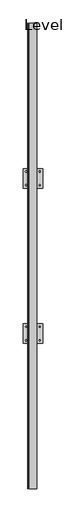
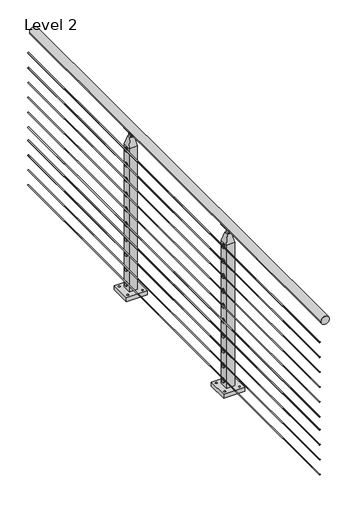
# One storey, part 5 of 17: 1 railing.
"""IFC4 building model written with IfcOpenShell, lengths in millimetres."""

from ifc_helpers import new_model, si_unit, point, frame, frame_2d, origin, place, context, project, spatial, polyline, circle_curve, trimmed, segment, composite_curve, outline, extrude, faceted_brep, element, save
from ifc_brep_helpers import plane_surface, cylinder_surface, revolved_surface, advanced_brep

model = new_model("IFC4")

# Units and contexts
model_context = context("Model", 3, world=origin())
ifc_project = project(units=[si_unit("LENGTHUNIT", "METRE", prefix="MILLI")], contexts=[model_context])

# Site, building, storey
site = spatial("IfcSite", under=ifc_project)
building = spatial("IfcBuilding", under=site)
storey = spatial("IfcBuildingStorey", under=building, Name="Level 2", Elevation=3048.0)

# Railing
placement = place(None, origin())
element("IfcRailing", 1, ObjectType="VIVA-CUBE-Multiline-Cable-Floor Mount-Straight", at=placement, inside=storey, context=model_context, shape_type="SolidModel", body=[
    extrude(outline(composite_curve([segment(trimmed(circle_curve(frame_2d((4102.1, 20884.8167764)), 25.4), [point((4102.1, 20910.2167764))], [point((4102.1, 20859.4167764))], False, "CARTESIAN"), True, "CONTINUOUS"), segment(trimmed(circle_curve(frame_2d((4102.1, 20884.8167764)), 25.4), [point((4102.1, 20859.4167764))], [point((4102.1, 20910.2167764))], False, "CARTESIAN"), True, "CONTINUOUS")], self_intersect=False)), frame((0.0, -68412.8034511, 0.0), z_axis=(0.0, 1.0, 0.0), x_axis=(0.0, 0.0, 1.0)), (0.0, 0.0, 1.0), 3048.0),
    extrude(outline(composite_curve([segment(trimmed(circle_curve(frame_2d((3972.7124, 20851.7967764)), 2.3876), [point((3972.7124, 20849.4091764))], [point((3972.7124, 20854.1843764))], False, "CARTESIAN"), True, "CONTINUOUS"), segment(trimmed(circle_curve(frame_2d((3972.7124, 20851.7967764)), 2.3876), [point((3972.7124, 20854.1843764))], [point((3972.7124, 20849.4091764))], False, "CARTESIAN"), True, "CONTINUOUS")], self_intersect=False)), frame((0.0, -68412.8034511, 0.0), z_axis=(0.0, 1.0, 0.0), x_axis=(0.0, 0.0, 1.0)), (0.0, 0.0, 1.0), 3048.0),
    extrude(outline(composite_curve([segment(trimmed(circle_curve(frame_2d((3877.4624, 20851.7967764)), 2.3876), [point((3877.4624, 20849.4091764))], [point((3877.4624, 20854.1843764))], False, "CARTESIAN"), True, "CONTINUOUS"), segment(trimmed(circle_curve(frame_2d((3877.4624, 20851.7967764)), 2.3876), [point((3877.4624, 20854.1843764))], [point((3877.4624, 20849.4091764))], False, "CARTESIAN"), True, "CONTINUOUS")], self_intersect=False)), frame((0.0, -68412.8034511, 0.0), z_axis=(0.0, 1.0, 0.0), x_axis=(0.0, 0.0, 1.0)), (0.0, 0.0, 1.0), 3048.0),
    extrude(outline(composite_curve([segment(trimmed(circle_curve(frame_2d((3782.2124, 20851.7967764)), 2.3876), [point((3782.2124, 20849.4091764))], [point((3782.2124, 20854.1843764))], False, "CARTESIAN"), True, "CONTINUOUS"), segment(trimmed(circle_curve(frame_2d((3782.2124, 20851.7967764)), 2.3876), [point((3782.2124, 20854.1843764))], [point((3782.2124, 20849.4091764))], False, "CARTESIAN"), True, "CONTINUOUS")], self_intersect=False)), frame((0.0, -68412.8034511, 0.0), z_axis=(0.0, 1.0, 0.0), x_axis=(0.0, 0.0, 1.0)), (0.0, 0.0, 1.0), 3048.0),
    extrude(outline(composite_curve([segment(trimmed(circle_curve(frame_2d((3686.9624, 20851.7967764)), 2.3876), [point((3686.9624, 20849.4091764))], [point((3686.9624, 20854.1843764))], False, "CARTESIAN"), True, "CONTINUOUS"), segment(trimmed(circle_curve(frame_2d((3686.9624, 20851.7967764)), 2.3876), [point((3686.9624, 20854.1843764))], [point((3686.9624, 20849.4091764))], False, "CARTESIAN"), True, "CONTINUOUS")], self_intersect=False)), frame((0.0, -68412.8034511, 0.0), z_axis=(0.0, 1.0, 0.0), x_axis=(0.0, 0.0, 1.0)), (0.0, 0.0, 1.0), 3048.0),
    extrude(outline(composite_curve([segment(trimmed(circle_curve(frame_2d((3591.7124, 20851.7967764)), 2.3876), [point((3591.7124, 20849.4091764))], [point((3591.7124, 20854.1843764))], False, "CARTESIAN"), True, "CONTINUOUS"), segment(trimmed(circle_curve(frame_2d((3591.7124, 20851.7967764)), 2.3876), [point((3591.7124, 20854.1843764))], [point((3591.7124, 20849.4091764))], False, "CARTESIAN"), True, "CONTINUOUS")], self_intersect=False)), frame((0.0, -68412.8034511, 0.0), z_axis=(0.0, 1.0, 0.0), x_axis=(0.0, 0.0, 1.0)), (0.0, 0.0, 1.0), 3048.0),
    extrude(outline(composite_curve([segment(trimmed(circle_curve(frame_2d((3496.4624, 20851.7967764)), 2.3876), [point((3496.4624, 20849.4091764))], [point((3496.4624, 20854.1843764))], False, "CARTESIAN"), True, "CONTINUOUS"), segment(trimmed(circle_curve(frame_2d((3496.4624, 20851.7967764)), 2.3876), [point((3496.4624, 20854.1843764))], [point((3496.4624, 20849.4091764))], False, "CARTESIAN"), True, "CONTINUOUS")], self_intersect=False)), frame((0.0, -68412.8034511, 0.0), z_axis=(0.0, 1.0, 0.0), x_axis=(0.0, 0.0, 1.0)), (0.0, 0.0, 1.0), 3048.0),
    extrude(outline(composite_curve([segment(trimmed(circle_curve(frame_2d((3413.9124, 20851.7967764)), 2.3876), [point((3413.9124, 20849.4091764))], [point((3413.9124, 20854.1843764))], False, "CARTESIAN"), True, "CONTINUOUS"), segment(trimmed(circle_curve(frame_2d((3413.9124, 20851.7967764)), 2.3876), [point((3413.9124, 20854.1843764))], [point((3413.9124, 20849.4091764))], False, "CARTESIAN"), True, "CONTINUOUS")], self_intersect=False)), frame((0.0, -68412.8034511, 0.0), z_axis=(0.0, 1.0, 0.0), x_axis=(0.0, 0.0, 1.0)), (0.0, 0.0, 1.0), 3048.0),
    extrude(outline(composite_curve([segment(trimmed(circle_curve(frame_2d((3318.6624, 20851.7967764)), 2.3876), [point((3318.6624, 20849.4091764))], [point((3318.6624, 20854.1843764))], False, "CARTESIAN"), True, "CONTINUOUS"), segment(trimmed(circle_curve(frame_2d((3318.6624, 20851.7967764)), 2.3876), [point((3318.6624, 20854.1843764))], [point((3318.6624, 20849.4091764))], False, "CARTESIAN"), True, "CONTINUOUS")], self_intersect=False)), frame((0.0, -68412.8034511, 0.0), z_axis=(0.0, 1.0, 0.0), x_axis=(0.0, 0.0, 1.0)), (0.0, 0.0, 1.0), 3048.0),
    extrude(outline(composite_curve([segment(trimmed(circle_curve(frame_2d((3223.4124, 20851.7967764)), 2.3876), [point((3223.4124, 20849.4091764))], [point((3223.4124, 20854.1843764))], False, "CARTESIAN"), True, "CONTINUOUS"), segment(trimmed(circle_curve(frame_2d((3223.4124, 20851.7967764)), 2.3876), [point((3223.4124, 20854.1843764))], [point((3223.4124, 20849.4091764))], False, "CARTESIAN"), True, "CONTINUOUS")], self_intersect=False)), frame((0.0, -68412.8034511, 0.0), z_axis=(0.0, 1.0, 0.0), x_axis=(0.0, 0.0, 1.0)), (0.0, 0.0, 1.0), 3048.0),
    extrude(outline(composite_curve([segment(trimmed(circle_curve(frame_2d((3128.1624, 20851.7967764)), 2.3876), [point((3128.1624, 20849.4091764))], [point((3128.1624, 20854.1843764))], False, "CARTESIAN"), True, "CONTINUOUS"), segment(trimmed(circle_curve(frame_2d((3128.1624, 20851.7967764)), 2.3876), [point((3128.1624, 20854.1843764))], [point((3128.1624, 20849.4091764))], False, "CARTESIAN"), True, "CONTINUOUS")], self_intersect=False)), frame((0.0, -68412.8034511, 0.0), z_axis=(0.0, 1.0, 0.0), x_axis=(0.0, 0.0, 1.0)), (0.0, 0.0, 1.0), 3048.0),
    advanced_brep(
    [(20854.0736021, -66367.3432432, 3111.5), (20854.0736021, -66392.6761591, 3111.5), (20854.0736021, -66380.0097011, 3111.5), (20859.4076021, -66367.3432432, 3111.5), (20859.4076021, -66392.6761591, 3111.5), (20859.4076021, -66380.0097011, 3111.5)],
    [
        (0, 1, circle_curve(frame((20854.0736021, -66380.0097011, 3111.5), z_axis=(-1.0, 0.0, 0.0), x_axis=(0.0, -1.0, 0.0)), 12.666458)),
        (1, 2),
        (2, 0),
        (1, 0, circle_curve(frame((20854.0736021, -66380.0097011, 3111.5), z_axis=(-1.0, 0.0, 0.0), x_axis=(0.0, -1.0, 0.0)), 12.666458)),
        (3, 4, circle_curve(frame((20859.4076021, -66380.0097011, 3111.5), z_axis=(-1.0, 0.0, 0.0), x_axis=(0.0, -1.0, 0.0)), 12.666458)),
        (4, 1),
        (0, 3),
        (4, 3, circle_curve(frame((20859.4076021, -66380.0097011, 3111.5), z_axis=(-1.0, 0.0, 0.0), x_axis=(0.0, -1.0, 0.0)), 12.666458)),
        (5, 4),
        (3, 5),
    ],
    [
        plane_surface(frame((20854.0736021, -66380.0097011, 3111.5), z_axis=(-1.0, 0.0, 0.0), x_axis=(0.0, -1.0, 0.0))),
        cylinder_surface(frame((20986.4167764, -66380.0097011, 3111.5), z_axis=(1.0, 0.0, 0.0), x_axis=(0.0, -1.0, 0.0)), 12.666458),
        plane_surface(frame((20859.4076021, -66380.0097011, 3111.5), z_axis=(1.0, 0.0, 0.0), x_axis=(0.0, -1.0, 0.0))),
    ],
    [
        (0, [[1, 2, 3]]),
        (0, [[4, -3, -2]]),
        (1, [[5, 6, -1, 7]]),
        (1, [[8, -7, -4, -6]]),
        (2, [[9, -5, 10]]),
        (2, [[-10, -8, -9]]),
    ],
),
    advanced_brep(
    [(20854.0736021, -66367.3432432, 3206.75), (20854.0736021, -66392.6761591, 3206.75), (20854.0736021, -66380.0097011, 3206.75), (20859.4076021, -66367.3432432, 3206.75), (20859.4076021, -66392.6761591, 3206.75), (20859.4076021, -66380.0097011, 3206.75)],
    [
        (0, 1, circle_curve(frame((20854.0736021, -66380.0097011, 3206.75), z_axis=(-1.0, 0.0, 0.0), x_axis=(0.0, -1.0, 0.0)), 12.666458)),
        (1, 2),
        (2, 0),
        (1, 0, circle_curve(frame((20854.0736021, -66380.0097011, 3206.75), z_axis=(-1.0, 0.0, 0.0), x_axis=(0.0, -1.0, 0.0)), 12.666458)),
        (3, 4, circle_curve(frame((20859.4076021, -66380.0097011, 3206.75), z_axis=(-1.0, 0.0, 0.0), x_axis=(0.0, -1.0, 0.0)), 12.666458)),
        (4, 1),
        (0, 3),
        (4, 3, circle_curve(frame((20859.4076021, -66380.0097011, 3206.75), z_axis=(-1.0, 0.0, 0.0), x_axis=(0.0, -1.0, 0.0)), 12.666458)),
        (5, 4),
        (3, 5),
    ],
    [
        plane_surface(frame((20854.0736021, -66380.0097011, 3206.75), z_axis=(-1.0, 0.0, 0.0), x_axis=(0.0, -1.0, 0.0))),
        cylinder_surface(frame((20986.4167764, -66380.0097011, 3206.75), z_axis=(1.0, 0.0, 0.0), x_axis=(0.0, -1.0, 0.0)), 12.666458),
        plane_surface(frame((20859.4076021, -66380.0097011, 3206.75), z_axis=(1.0, 0.0, 0.0), x_axis=(0.0, -1.0, 0.0))),
    ],
    [
        (0, [[1, 2, 3]]),
        (0, [[4, -3, -2]]),
        (1, [[5, 6, -1, 7]]),
        (1, [[8, -7, -4, -6]]),
        (2, [[9, -5, 10]]),
        (2, [[-10, -8, -9]]),
    ],
),
    advanced_brep(
    [(20854.0736021, -66367.3432432, 3302.0), (20854.0736021, -66392.6761591, 3302.0), (20854.0736021, -66380.0097011, 3302.0), (20859.4076021, -66367.3432432, 3302.0), (20859.4076021, -66392.6761591, 3302.0), (20859.4076021, -66380.0097011, 3302.0)],
    [
        (0, 1, circle_curve(frame((20854.0736021, -66380.0097011, 3302.0), z_axis=(-1.0, 0.0, 0.0), x_axis=(0.0, -1.0, 0.0)), 12.666458)),
        (1, 2),
        (2, 0),
        (1, 0, circle_curve(frame((20854.0736021, -66380.0097011, 3302.0), z_axis=(-1.0, 0.0, 0.0), x_axis=(0.0, -1.0, 0.0)), 12.666458)),
        (3, 4, circle_curve(frame((20859.4076021, -66380.0097011, 3302.0), z_axis=(-1.0, 0.0, 0.0), x_axis=(0.0, -1.0, 0.0)), 12.666458)),
        (4, 1),
        (0, 3),
        (4, 3, circle_curve(frame((20859.4076021, -66380.0097011, 3302.0), z_axis=(-1.0, 0.0, 0.0), x_axis=(0.0, -1.0, 0.0)), 12.666458)),
        (5, 4),
        (3, 5),
    ],
    [
        plane_surface(frame((20854.0736021, -66380.0097011, 3302.0), z_axis=(-1.0, 0.0, 0.0), x_axis=(0.0, -1.0, 0.0))),
        cylinder_surface(frame((20986.4167764, -66380.0097011, 3302.0), z_axis=(1.0, 0.0, 0.0), x_axis=(0.0, -1.0, 0.0)), 12.666458),
        plane_surface(frame((20859.4076021, -66380.0097011, 3302.0), z_axis=(1.0, 0.0, 0.0), x_axis=(0.0, -1.0, 0.0))),
    ],
    [
        (0, [[1, 2, 3]]),
        (0, [[4, -3, -2]]),
        (1, [[5, 6, -1, 7]]),
        (1, [[8, -7, -4, -6]]),
        (2, [[9, -5, 10]]),
        (2, [[-10, -8, -9]]),
    ],
),
    advanced_brep(
    [(20854.0736021, -66367.3432432, 3397.25), (20854.0736021, -66392.6761591, 3397.25), (20854.0736021, -66380.0097011, 3397.25), (20859.4076021, -66367.3432432, 3397.25), (20859.4076021, -66392.6761591, 3397.25), (20859.4076021, -66380.0097011, 3397.25)],
    [
        (0, 1, circle_curve(frame((20854.0736021, -66380.0097011, 3397.25), z_axis=(-1.0, 0.0, 0.0), x_axis=(0.0, -1.0, 0.0)), 12.666458)),
        (1, 2),
        (2, 0),
        (1, 0, circle_curve(frame((20854.0736021, -66380.0097011, 3397.25), z_axis=(-1.0, 0.0, 0.0), x_axis=(0.0, -1.0, 0.0)), 12.666458)),
        (3, 4, circle_curve(frame((20859.4076021, -66380.0097011, 3397.25), z_axis=(-1.0, 0.0, 0.0), x_axis=(0.0, -1.0, 0.0)), 12.666458)),
        (4, 1),
        (0, 3),
        (4, 3, circle_curve(frame((20859.4076021, -66380.0097011, 3397.25), z_axis=(-1.0, 0.0, 0.0), x_axis=(0.0, -1.0, 0.0)), 12.666458)),
        (5, 4),
        (3, 5),
    ],
    [
        plane_surface(frame((20854.0736021, -66380.0097011, 3397.25), z_axis=(-1.0, 0.0, 0.0), x_axis=(0.0, -1.0, 0.0))),
        cylinder_surface(frame((20986.4167764, -66380.0097011, 3397.25), z_axis=(1.0, 0.0, 0.0), x_axis=(0.0, -1.0, 0.0)), 12.666458),
        plane_surface(frame((20859.4076021, -66380.0097011, 3397.25), z_axis=(1.0, 0.0, 0.0), x_axis=(0.0, -1.0, 0.0))),
    ],
    [
        (0, [[1, 2, 3]]),
        (0, [[4, -3, -2]]),
        (1, [[5, 6, -1, 7]]),
        (1, [[8, -7, -4, -6]]),
        (2, [[9, -5, 10]]),
        (2, [[-10, -8, -9]]),
    ],
),
    advanced_brep(
    [(20854.0736021, -66367.3432432, 3492.5), (20854.0736021, -66392.6761591, 3492.5), (20854.0736021, -66380.0097011, 3492.5), (20859.4076021, -66367.3432432, 3492.5), (20859.4076021, -66392.6761591, 3492.5), (20859.4076021, -66380.0097011, 3492.5)],
    [
        (0, 1, circle_curve(frame((20854.0736021, -66380.0097011, 3492.5), z_axis=(-1.0, 0.0, 0.0), x_axis=(0.0, -1.0, 0.0)), 12.666458)),
        (1, 2),
        (2, 0),
        (1, 0, circle_curve(frame((20854.0736021, -66380.0097011, 3492.5), z_axis=(-1.0, 0.0, 0.0), x_axis=(0.0, -1.0, 0.0)), 12.666458)),
        (3, 4, circle_curve(frame((20859.4076021, -66380.0097011, 3492.5), z_axis=(-1.0, 0.0, 0.0), x_axis=(0.0, -1.0, 0.0)), 12.666458)),
        (4, 1),
        (0, 3),
        (4, 3, circle_curve(frame((20859.4076021, -66380.0097011, 3492.5), z_axis=(-1.0, 0.0, 0.0), x_axis=(0.0, -1.0, 0.0)), 12.666458)),
        (5, 4),
        (3, 5),
    ],
    [
        plane_surface(frame((20854.0736021, -66380.0097011, 3492.5), z_axis=(-1.0, 0.0, 0.0), x_axis=(0.0, -1.0, 0.0))),
        cylinder_surface(frame((20986.4167764, -66380.0097011, 3492.5), z_axis=(1.0, 0.0, 0.0), x_axis=(0.0, -1.0, 0.0)), 12.666458),
        plane_surface(frame((20859.4076021, -66380.0097011, 3492.5), z_axis=(1.0, 0.0, 0.0), x_axis=(0.0, -1.0, 0.0))),
    ],
    [
        (0, [[1, 2, 3]]),
        (0, [[4, -3, -2]]),
        (1, [[5, 6, -1, 7]]),
        (1, [[8, -7, -4, -6]]),
        (2, [[9, -5, 10]]),
        (2, [[-10, -8, -9]]),
    ],
),
    advanced_brep(
    [(20854.0736021, -66367.3432432, 3587.75), (20854.0736021, -66392.6761591, 3587.75), (20854.0736021, -66380.0097011, 3587.75), (20859.4076021, -66367.3432432, 3587.75), (20859.4076021, -66392.6761591, 3587.75), (20859.4076021, -66380.0097011, 3587.75)],
    [
        (0, 1, circle_curve(frame((20854.0736021, -66380.0097011, 3587.75), z_axis=(-1.0, 0.0, 0.0), x_axis=(0.0, -1.0, 0.0)), 12.666458)),
        (1, 2),
        (2, 0),
        (1, 0, circle_curve(frame((20854.0736021, -66380.0097011, 3587.75), z_axis=(-1.0, 0.0, 0.0), x_axis=(0.0, -1.0, 0.0)), 12.666458)),
        (3, 4, circle_curve(frame((20859.4076021, -66380.0097011, 3587.75), z_axis=(-1.0, 0.0, 0.0), x_axis=(0.0, -1.0, 0.0)), 12.666458)),
        (4, 1),
        (0, 3),
        (4, 3, circle_curve(frame((20859.4076021, -66380.0097011, 3587.75), z_axis=(-1.0, 0.0, 0.0), x_axis=(0.0, -1.0, 0.0)), 12.666458)),
        (5, 4),
        (3, 5),
    ],
    [
        plane_surface(frame((20854.0736021, -66380.0097011, 3587.75), z_axis=(-1.0, 0.0, 0.0), x_axis=(0.0, -1.0, 0.0))),
        cylinder_surface(frame((20986.4167764, -66380.0097011, 3587.75), z_axis=(1.0, 0.0, 0.0), x_axis=(0.0, -1.0, 0.0)), 12.666458),
        plane_surface(frame((20859.4076021, -66380.0097011, 3587.75), z_axis=(1.0, 0.0, 0.0), x_axis=(0.0, -1.0, 0.0))),
    ],
    [
        (0, [[1, 2, 3]]),
        (0, [[4, -3, -2]]),
        (1, [[5, 6, -1, 7]]),
        (1, [[8, -7, -4, -6]]),
        (2, [[9, -5, 10]]),
        (2, [[-10, -8, -9]]),
    ],
),
    advanced_brep(
    [(20854.0736021, -66367.3432432, 3683.0), (20854.0736021, -66392.6761591, 3683.0), (20854.0736021, -66380.0097011, 3683.0), (20859.4076021, -66367.3432432, 3683.0), (20859.4076021, -66392.6761591, 3683.0), (20859.4076021, -66380.0097011, 3683.0)],
    [
        (0, 1, circle_curve(frame((20854.0736021, -66380.0097011, 3683.0), z_axis=(-1.0, 0.0, 0.0), x_axis=(0.0, -1.0, 0.0)), 12.666458)),
        (1, 2),
        (2, 0),
        (1, 0, circle_curve(frame((20854.0736021, -66380.0097011, 3683.0), z_axis=(-1.0, 0.0, 0.0), x_axis=(0.0, -1.0, 0.0)), 12.666458)),
        (3, 4, circle_curve(frame((20859.4076021, -66380.0097011, 3683.0), z_axis=(-1.0, 0.0, 0.0), x_axis=(0.0, -1.0, 0.0)), 12.666458)),
        (4, 1),
        (0, 3),
        (4, 3, circle_curve(frame((20859.4076021, -66380.0097011, 3683.0), z_axis=(-1.0, 0.0, 0.0), x_axis=(0.0, -1.0, 0.0)), 12.666458)),
        (5, 4),
        (3, 5),
    ],
    [
        plane_surface(frame((20854.0736021, -66380.0097011, 3683.0), z_axis=(-1.0, 0.0, 0.0), x_axis=(0.0, -1.0, 0.0))),
        cylinder_surface(frame((20986.4167764, -66380.0097011, 3683.0), z_axis=(1.0, 0.0, 0.0), x_axis=(0.0, -1.0, 0.0)), 12.666458),
        plane_surface(frame((20859.4076021, -66380.0097011, 3683.0), z_axis=(1.0, 0.0, 0.0), x_axis=(0.0, -1.0, 0.0))),
    ],
    [
        (0, [[1, 2, 3]]),
        (0, [[4, -3, -2]]),
        (1, [[5, 6, -1, 7]]),
        (1, [[8, -7, -4, -6]]),
        (2, [[9, -5, 10]]),
        (2, [[-10, -8, -9]]),
    ],
),
    advanced_brep(
    [(20854.0736021, -66367.3432432, 3778.25), (20854.0736021, -66392.6761591, 3778.25), (20854.0736021, -66380.0097011, 3778.25), (20859.4076021, -66367.3432432, 3778.25), (20859.4076021, -66392.6761591, 3778.25), (20859.4076021, -66380.0097011, 3778.25)],
    [
        (0, 1, circle_curve(frame((20854.0736021, -66380.0097011, 3778.25), z_axis=(-1.0, 0.0, 0.0), x_axis=(0.0, -1.0, 0.0)), 12.666458)),
        (1, 2),
        (2, 0),
        (1, 0, circle_curve(frame((20854.0736021, -66380.0097011, 3778.25), z_axis=(-1.0, 0.0, 0.0), x_axis=(0.0, -1.0, 0.0)), 12.666458)),
        (3, 4, circle_curve(frame((20859.4076021, -66380.0097011, 3778.25), z_axis=(-1.0, 0.0, 0.0), x_axis=(0.0, -1.0, 0.0)), 12.666458)),
        (4, 1),
        (0, 3),
        (4, 3, circle_curve(frame((20859.4076021, -66380.0097011, 3778.25), z_axis=(-1.0, 0.0, 0.0), x_axis=(0.0, -1.0, 0.0)), 12.666458)),
        (5, 4),
        (3, 5),
    ],
    [
        plane_surface(frame((20854.0736021, -66380.0097011, 3778.25), z_axis=(-1.0, 0.0, 0.0), x_axis=(0.0, -1.0, 0.0))),
        cylinder_surface(frame((20986.4167764, -66380.0097011, 3778.25), z_axis=(1.0, 0.0, 0.0), x_axis=(0.0, -1.0, 0.0)), 12.666458),
        plane_surface(frame((20859.4076021, -66380.0097011, 3778.25), z_axis=(1.0, 0.0, 0.0), x_axis=(0.0, -1.0, 0.0))),
    ],
    [
        (0, [[1, 2, 3]]),
        (0, [[4, -3, -2]]),
        (1, [[5, 6, -1, 7]]),
        (1, [[8, -7, -4, -6]]),
        (2, [[9, -5, 10]]),
        (2, [[-10, -8, -9]]),
    ],
),
    advanced_brep(
    [(20854.0736021, -66367.3432432, 3873.5), (20854.0736021, -66392.6761591, 3873.5), (20854.0736021, -66380.0097011, 3873.5), (20859.4076021, -66367.3432432, 3873.5), (20859.4076021, -66392.6761591, 3873.5), (20859.4076021, -66380.0097011, 3873.5)],
    [
        (0, 1, circle_curve(frame((20854.0736021, -66380.0097011, 3873.5), z_axis=(-1.0, 0.0, 0.0), x_axis=(0.0, -1.0, 0.0)), 12.666458)),
        (1, 2),
        (2, 0),
        (1, 0, circle_curve(frame((20854.0736021, -66380.0097011, 3873.5), z_axis=(-1.0, 0.0, 0.0), x_axis=(0.0, -1.0, 0.0)), 12.666458)),
        (3, 4, circle_curve(frame((20859.4076021, -66380.0097011, 3873.5), z_axis=(-1.0, 0.0, 0.0), x_axis=(0.0, -1.0, 0.0)), 12.666458)),
        (4, 1),
        (0, 3),
        (4, 3, circle_curve(frame((20859.4076021, -66380.0097011, 3873.5), z_axis=(-1.0, 0.0, 0.0), x_axis=(0.0, -1.0, 0.0)), 12.666458)),
        (5, 4),
        (3, 5),
    ],
    [
        plane_surface(frame((20854.0736021, -66380.0097011, 3873.5), z_axis=(-1.0, 0.0, 0.0), x_axis=(0.0, -1.0, 0.0))),
        cylinder_surface(frame((20986.4167764, -66380.0097011, 3873.5), z_axis=(1.0, 0.0, 0.0), x_axis=(0.0, -1.0, 0.0)), 12.666458),
        plane_surface(frame((20859.4076021, -66380.0097011, 3873.5), z_axis=(1.0, 0.0, 0.0), x_axis=(0.0, -1.0, 0.0))),
    ],
    [
        (0, [[1, 2, 3]]),
        (0, [[4, -3, -2]]),
        (1, [[5, 6, -1, 7]]),
        (1, [[8, -7, -4, -6]]),
        (2, [[9, -5, 10]]),
        (2, [[-10, -8, -9]]),
    ],
),
    advanced_brep(
    [(20854.0736021, -66367.3432432, 3968.75), (20854.0736021, -66392.6761591, 3968.75), (20854.0736021, -66380.0097011, 3968.75), (20859.4076021, -66367.3432432, 3968.75), (20859.4076021, -66392.6761591, 3968.75), (20859.4076021, -66380.0097011, 3968.75)],
    [
        (0, 1, circle_curve(frame((20854.0736021, -66380.0097011, 3968.75), z_axis=(-1.0, 0.0, 0.0), x_axis=(0.0, -1.0, 0.0)), 12.666458)),
        (1, 2),
        (2, 0),
        (1, 0, circle_curve(frame((20854.0736021, -66380.0097011, 3968.75), z_axis=(-1.0, 0.0, 0.0), x_axis=(0.0, -1.0, 0.0)), 12.666458)),
        (3, 4, circle_curve(frame((20859.4076021, -66380.0097011, 3968.75), z_axis=(-1.0, 0.0, 0.0), x_axis=(0.0, -1.0, 0.0)), 12.666458)),
        (4, 1),
        (0, 3),
        (4, 3, circle_curve(frame((20859.4076021, -66380.0097011, 3968.75), z_axis=(-1.0, 0.0, 0.0), x_axis=(0.0, -1.0, 0.0)), 12.666458)),
        (5, 4),
        (3, 5),
    ],
    [
        plane_surface(frame((20854.0736021, -66380.0097011, 3968.75), z_axis=(-1.0, 0.0, 0.0), x_axis=(0.0, -1.0, 0.0))),
        cylinder_surface(frame((20986.4167764, -66380.0097011, 3968.75), z_axis=(1.0, 0.0, 0.0), x_axis=(0.0, -1.0, 0.0)), 12.666458),
        plane_surface(frame((20859.4076021, -66380.0097011, 3968.75), z_axis=(1.0, 0.0, 0.0), x_axis=(0.0, -1.0, 0.0))),
    ],
    [
        (0, [[1, 2, 3]]),
        (0, [[4, -3, -2]]),
        (1, [[5, 6, -1, 7]]),
        (1, [[8, -7, -4, -6]]),
        (2, [[9, -5, 10]]),
        (2, [[-10, -8, -9]]),
    ],
),
    extrude(outline(polyline([(20821.3167764, -66316.9065761), (20948.3167764, -66316.9065761), (20948.3167764, -66443.9065761), (20821.3167764, -66443.9065761), (20821.3167764, -66316.9065761)]), holes=[composite_curve([segment(trimmed(circle_curve(frame_2d((20929.2667764, -66424.8565761)), 4.7625), [point((20934.0292764, -66424.8565761))], [point((20924.5042764, -66424.8565761))], True, "CARTESIAN"), True, "CONTINUOUS"), segment(trimmed(circle_curve(frame_2d((20929.2667764, -66424.8565761)), 4.7625), [point((20924.5042764, -66424.8565761))], [point((20934.0292764, -66424.8565761))], True, "CARTESIAN"), True, "CONTINUOUS")], self_intersect=False), composite_curve([segment(trimmed(circle_curve(frame_2d((20840.3667764, -66424.8565761)), 4.7625), [point((20845.1292764, -66424.8565761))], [point((20835.6042764, -66424.8565761))], True, "CARTESIAN"), True, "CONTINUOUS"), segment(trimmed(circle_curve(frame_2d((20840.3667764, -66424.8565761)), 4.7625), [point((20835.6042764, -66424.8565761))], [point((20845.1292764, -66424.8565761))], True, "CARTESIAN"), True, "CONTINUOUS")], self_intersect=False), composite_curve([segment(trimmed(circle_curve(frame_2d((20929.2667764, -66335.9565761)), 4.7625), [point((20934.0292764, -66335.9565761))], [point((20924.5042764, -66335.9565761))], True, "CARTESIAN"), True, "CONTINUOUS"), segment(trimmed(circle_curve(frame_2d((20929.2667764, -66335.9565761)), 4.7625), [point((20924.5042764, -66335.9565761))], [point((20934.0292764, -66335.9565761))], True, "CARTESIAN"), True, "CONTINUOUS")], self_intersect=False), composite_curve([segment(trimmed(circle_curve(frame_2d((20840.3667764, -66335.9565761)), 4.7625), [point((20845.1292764, -66335.9565761))], [point((20835.6042764, -66335.9565761))], True, "CARTESIAN"), True, "CONTINUOUS"), segment(trimmed(circle_curve(frame_2d((20840.3667764, -66335.9565761)), 4.7625), [point((20835.6042764, -66335.9565761))], [point((20845.1292764, -66335.9565761))], True, "CARTESIAN"), True, "CONTINUOUS")], self_intersect=False)]), frame((0.0, 0.0, 3048.0), z_axis=(0.0, 0.0, 1.0), x_axis=(1.0, 0.0, 0.0)), (0.0, 0.0, 1.0), 25.4),
    faceted_brep([(20872.1167764, -66367.7065761, 4045.2902749), (20872.1167764, -66393.1065761, 4045.2902749), (20880.8480264, -66393.1065761, 4045.2902749), (20880.8480264, -66367.7065761, 4045.2902749), (20897.5167764, -66393.1065761, 4045.2902749), (20897.5167764, -66367.7065761, 4045.2902749), (20888.7855264, -66367.7065761, 4045.2902749), (20888.7855264, -66393.1065761, 4045.2902749), (20859.4167764, -66355.0065761, 3989.1347854), (20910.2167764, -66355.0065761, 3989.1347854), (20859.4167764, -66405.8065761, 3989.1347854), (20910.2167764, -66405.8065761, 3989.1347854), (20859.4167764, -66355.0065761, 3073.4), (20910.2167764, -66355.0065761, 3073.4), (20910.2167764, -66405.8065761, 3073.4), (20859.4167764, -66405.8065761, 3073.4), (20888.7855264, -66393.1065761, 4057.3306013), (20888.7855264, -66367.7065761, 4057.3306013), (20880.8480264, -66367.7065761, 4057.3306013), (20880.8480264, -66393.1065761, 4057.3306013)], [[[0, 1, 2, 3]], [[4, 5, 6, 7]], [[8, 0, 3, 6, 5, 9]], [[1, 0, 8, 10]], [[1, 10, 11, 4, 7, 2]], [[5, 4, 11, 9]], [[12, 13, 14, 15]], [[12, 15, 10, 8]], [[15, 14, 11, 10]], [[14, 13, 9, 11]], [[13, 12, 8, 9]], [[16, 17, 18, 19]], [[17, 16, 7, 6]], [[18, 17, 6, 3]], [[19, 18, 3, 2]], [[16, 19, 2, 7]]]),
    extrude(outline(composite_curve([segment(trimmed(circle_curve(frame_2d((4102.1433184, 20884.720048)), 25.4345159), [point((4080.0284941, 20897.2838509))], [point((4079.9335733, 20872.3248142))], True, "CARTESIAN"), True, "CONTINUOUS"), segment(trimmed(circle_curve(frame_2d((4077.4310885, 20871.0801611)), 2.7949225), [point((4079.9335733, 20872.3248142))], [point((4075.0585031, 20869.602856))], False, "CARTESIAN"), True, "CONTINUOUS"), segment(trimmed(circle_curve(frame_2d((4102.905945, 20884.8535111)), 31.75), [point((4075.0585031, 20869.602856))], [point((4075.6392616, 20901.1197483))], False, "CARTESIAN"), True, "CONTINUOUS"), segment(trimmed(circle_curve(frame_2d((4077.5101807, 20898.8314085)), 2.9558141), [point((4075.6392616, 20901.1197483))], [point((4080.0284941, 20897.2838509))], False, "CARTESIAN"), True, "CONTINUOUS")], self_intersect=False)), frame((0.0, -66425.6439761, 0.0), z_axis=(0.0, 1.0, 0.0), x_axis=(0.0, 0.0, 1.0)), (0.0, 0.0, 1.0), 90.4748),
    advanced_brep(
    [(20882.2767764, -66353.3386612, 4071.3685171), (20882.2767764, -66367.7065761, 4057.0006022), (20882.2767764, -66393.1065761, 4057.0006022), (20882.2767764, -66407.474491, 4071.3685171), (20887.3567764, -66353.3386612, 4071.3685171), (20887.3567764, -66407.474491, 4071.3685171), (20887.3567764, -66393.1065761, 4057.0006022), (20887.3567764, -66367.7065761, 4057.0006022)],
    [
        (0, 1, circle_curve(frame((20882.2767764, -66353.3386612, 4057.0006022), z_axis=(1.0, 0.0, 0.0), x_axis=(0.0, -1.0, 0.0)), 14.3679149)),
        (1, 2, circle_curve(frame((20882.2767764, -66380.4065761, 4057.0006022), z_axis=(-1.0, 0.0, 0.0), x_axis=(0.0, -1.0, 0.0)), 12.7)),
        (2, 3, circle_curve(frame((20882.2767764, -66407.474491, 4057.0006022), z_axis=(1.0, 0.0, 0.0), x_axis=(0.0, -1.0, 0.0)), 14.3679149)),
        (3, 0),
        (4, 5),
        (5, 6, circle_curve(frame((20887.3567764, -66407.474491, 4057.0006022), z_axis=(-1.0, 0.0, 0.0), x_axis=(0.0, -1.0, 0.0)), 14.3679149)),
        (6, 7, circle_curve(frame((20887.3567764, -66380.4065761, 4057.0006022), z_axis=(1.0, 0.0, 0.0), x_axis=(0.0, -1.0, 0.0)), 12.7)),
        (7, 4, circle_curve(frame((20887.3567764, -66353.3386612, 4057.0006022), z_axis=(-1.0, 0.0, 0.0), x_axis=(0.0, -1.0, 0.0)), 14.3679149)),
        (0, 4),
        (7, 1),
        (6, 2),
        (5, 3),
    ],
    [
        plane_surface(frame((20882.2767764, -66367.7065761, 4057.0006022), z_axis=(-1.0, 0.0, 0.0), x_axis=(0.0, 0.0, -1.0))),
        plane_surface(frame((20887.3567764, -66367.7065761, 4057.0006022), z_axis=(1.0, 0.0, 0.0), x_axis=(0.0, 0.0, 1.0))),
        revolved_surface(polyline([(20887.3567764, -66367.7065761, 4057.0006022), (20882.2767764, -66367.7065761, 4057.0006022)]), (20887.3567764, -66353.3386612, 4057.0006022), (1.0, 0.0, 0.0)),
        cylinder_surface(frame((20887.3567764, -66380.4065761, 4057.0006022), z_axis=(-1.0, 0.0, 0.0), x_axis=(0.0, -1.0, 0.0)), 12.7),
        revolved_surface(polyline([(20887.3567764, -66421.8424059, 4057.0006022), (20882.2767764, -66421.8424059, 4057.0006022)]), (20887.3567764, -66407.474491, 4057.0006022), (1.0, 0.0, 0.0)),
        plane_surface(frame((20882.2767764, -66407.474491, 4071.3685171), z_axis=(0.0, 0.0, 1.0), x_axis=(1.0, 0.0, 0.0))),
    ],
    [
        (0, [[1, 2, 3, 4]]),
        (1, [[5, 6, 7, 8]]),
        (2, [[-1, 9, -8, 10]]),
        (3, [[-2, -10, -7, 11]]),
        (4, [[-3, -11, -6, 12]]),
        (5, [[-4, -12, -5, -9]]),
    ],
),
    advanced_brep(
    [(20854.0736021, -67383.3432432, 3111.5), (20854.0736021, -67408.6761591, 3111.5), (20854.0736021, -67396.0097011, 3111.5), (20859.4076021, -67383.3432432, 3111.5), (20859.4076021, -67408.6761591, 3111.5), (20859.4076021, -67396.0097011, 3111.5)],
    [
        (0, 1, circle_curve(frame((20854.0736021, -67396.0097011, 3111.5), z_axis=(-1.0, 0.0, 0.0), x_axis=(0.0, -1.0, 0.0)), 12.666458)),
        (1, 2),
        (2, 0),
        (1, 0, circle_curve(frame((20854.0736021, -67396.0097011, 3111.5), z_axis=(-1.0, 0.0, 0.0), x_axis=(0.0, -1.0, 0.0)), 12.666458)),
        (3, 4, circle_curve(frame((20859.4076021, -67396.0097011, 3111.5), z_axis=(-1.0, 0.0, 0.0), x_axis=(0.0, -1.0, 0.0)), 12.666458)),
        (4, 1),
        (0, 3),
        (4, 3, circle_curve(frame((20859.4076021, -67396.0097011, 3111.5), z_axis=(-1.0, 0.0, 0.0), x_axis=(0.0, -1.0, 0.0)), 12.666458)),
        (5, 4),
        (3, 5),
    ],
    [
        plane_surface(frame((20854.0736021, -67396.0097011, 3111.5), z_axis=(-1.0, 0.0, 0.0), x_axis=(0.0, -1.0, 0.0))),
        cylinder_surface(frame((20986.4167764, -67396.0097011, 3111.5), z_axis=(1.0, 0.0, 0.0), x_axis=(0.0, -1.0, 0.0)), 12.666458),
        plane_surface(frame((20859.4076021, -67396.0097011, 3111.5), z_axis=(1.0, 0.0, 0.0), x_axis=(0.0, -1.0, 0.0))),
    ],
    [
        (0, [[1, 2, 3]]),
        (0, [[4, -3, -2]]),
        (1, [[5, 6, -1, 7]]),
        (1, [[8, -7, -4, -6]]),
        (2, [[9, -5, 10]]),
        (2, [[-10, -8, -9]]),
    ],
),
    advanced_brep(
    [(20854.0736021, -67383.3432432, 3206.75), (20854.0736021, -67408.6761591, 3206.75), (20854.0736021, -67396.0097011, 3206.75), (20859.4076021, -67383.3432432, 3206.75), (20859.4076021, -67408.6761591, 3206.75), (20859.4076021, -67396.0097011, 3206.75)],
    [
        (0, 1, circle_curve(frame((20854.0736021, -67396.0097011, 3206.75), z_axis=(-1.0, 0.0, 0.0), x_axis=(0.0, -1.0, 0.0)), 12.666458)),
        (1, 2),
        (2, 0),
        (1, 0, circle_curve(frame((20854.0736021, -67396.0097011, 3206.75), z_axis=(-1.0, 0.0, 0.0), x_axis=(0.0, -1.0, 0.0)), 12.666458)),
        (3, 4, circle_curve(frame((20859.4076021, -67396.0097011, 3206.75), z_axis=(-1.0, 0.0, 0.0), x_axis=(0.0, -1.0, 0.0)), 12.666458)),
        (4, 1),
        (0, 3),
        (4, 3, circle_curve(frame((20859.4076021, -67396.0097011, 3206.75), z_axis=(-1.0, 0.0, 0.0), x_axis=(0.0, -1.0, 0.0)), 12.666458)),
        (5, 4),
        (3, 5),
    ],
    [
        plane_surface(frame((20854.0736021, -67396.0097011, 3206.75), z_axis=(-1.0, 0.0, 0.0), x_axis=(0.0, -1.0, 0.0))),
        cylinder_surface(frame((20986.4167764, -67396.0097011, 3206.75), z_axis=(1.0, 0.0, 0.0), x_axis=(0.0, -1.0, 0.0)), 12.666458),
        plane_surface(frame((20859.4076021, -67396.0097011, 3206.75), z_axis=(1.0, 0.0, 0.0), x_axis=(0.0, -1.0, 0.0))),
    ],
    [
        (0, [[1, 2, 3]]),
        (0, [[4, -3, -2]]),
        (1, [[5, 6, -1, 7]]),
        (1, [[8, -7, -4, -6]]),
        (2, [[9, -5, 10]]),
        (2, [[-10, -8, -9]]),
    ],
),
    advanced_brep(
    [(20854.0736021, -67383.3432432, 3302.0), (20854.0736021, -67408.6761591, 3302.0), (20854.0736021, -67396.0097011, 3302.0), (20859.4076021, -67383.3432432, 3302.0), (20859.4076021, -67408.6761591, 3302.0), (20859.4076021, -67396.0097011, 3302.0)],
    [
        (0, 1, circle_curve(frame((20854.0736021, -67396.0097011, 3302.0), z_axis=(-1.0, 0.0, 0.0), x_axis=(0.0, -1.0, 0.0)), 12.666458)),
        (1, 2),
        (2, 0),
        (1, 0, circle_curve(frame((20854.0736021, -67396.0097011, 3302.0), z_axis=(-1.0, 0.0, 0.0), x_axis=(0.0, -1.0, 0.0)), 12.666458)),
        (3, 4, circle_curve(frame((20859.4076021, -67396.0097011, 3302.0), z_axis=(-1.0, 0.0, 0.0), x_axis=(0.0, -1.0, 0.0)), 12.666458)),
        (4, 1),
        (0, 3),
        (4, 3, circle_curve(frame((20859.4076021, -67396.0097011, 3302.0), z_axis=(-1.0, 0.0, 0.0), x_axis=(0.0, -1.0, 0.0)), 12.666458)),
        (5, 4),
        (3, 5),
    ],
    [
        plane_surface(frame((20854.0736021, -67396.0097011, 3302.0), z_axis=(-1.0, 0.0, 0.0), x_axis=(0.0, -1.0, 0.0))),
        cylinder_surface(frame((20986.4167764, -67396.0097011, 3302.0), z_axis=(1.0, 0.0, 0.0), x_axis=(0.0, -1.0, 0.0)), 12.666458),
        plane_surface(frame((20859.4076021, -67396.0097011, 3302.0), z_axis=(1.0, 0.0, 0.0), x_axis=(0.0, -1.0, 0.0))),
    ],
    [
        (0, [[1, 2, 3]]),
        (0, [[4, -3, -2]]),
        (1, [[5, 6, -1, 7]]),
        (1, [[8, -7, -4, -6]]),
        (2, [[9, -5, 10]]),
        (2, [[-10, -8, -9]]),
    ],
),
    advanced_brep(
    [(20854.0736021, -67383.3432432, 3397.25), (20854.0736021, -67408.6761591, 3397.25), (20854.0736021, -67396.0097011, 3397.25), (20859.4076021, -67383.3432432, 3397.25), (20859.4076021, -67408.6761591, 3397.25), (20859.4076021, -67396.0097011, 3397.25)],
    [
        (0, 1, circle_curve(frame((20854.0736021, -67396.0097011, 3397.25), z_axis=(-1.0, 0.0, 0.0), x_axis=(0.0, -1.0, 0.0)), 12.666458)),
        (1, 2),
        (2, 0),
        (1, 0, circle_curve(frame((20854.0736021, -67396.0097011, 3397.25), z_axis=(-1.0, 0.0, 0.0), x_axis=(0.0, -1.0, 0.0)), 12.666458)),
        (3, 4, circle_curve(frame((20859.4076021, -67396.0097011, 3397.25), z_axis=(-1.0, 0.0, 0.0), x_axis=(0.0, -1.0, 0.0)), 12.666458)),
        (4, 1),
        (0, 3),
        (4, 3, circle_curve(frame((20859.4076021, -67396.0097011, 3397.25), z_axis=(-1.0, 0.0, 0.0), x_axis=(0.0, -1.0, 0.0)), 12.666458)),
        (5, 4),
        (3, 5),
    ],
    [
        plane_surface(frame((20854.0736021, -67396.0097011, 3397.25), z_axis=(-1.0, 0.0, 0.0), x_axis=(0.0, -1.0, 0.0))),
        cylinder_surface(frame((20986.4167764, -67396.0097011, 3397.25), z_axis=(1.0, 0.0, 0.0), x_axis=(0.0, -1.0, 0.0)), 12.666458),
        plane_surface(frame((20859.4076021, -67396.0097011, 3397.25), z_axis=(1.0, 0.0, 0.0), x_axis=(0.0, -1.0, 0.0))),
    ],
    [
        (0, [[1, 2, 3]]),
        (0, [[4, -3, -2]]),
        (1, [[5, 6, -1, 7]]),
        (1, [[8, -7, -4, -6]]),
        (2, [[9, -5, 10]]),
        (2, [[-10, -8, -9]]),
    ],
),
    advanced_brep(
    [(20854.0736021, -67383.3432432, 3492.5), (20854.0736021, -67408.6761591, 3492.5), (20854.0736021, -67396.0097011, 3492.5), (20859.4076021, -67383.3432432, 3492.5), (20859.4076021, -67408.6761591, 3492.5), (20859.4076021, -67396.0097011, 3492.5)],
    [
        (0, 1, circle_curve(frame((20854.0736021, -67396.0097011, 3492.5), z_axis=(-1.0, 0.0, 0.0), x_axis=(0.0, -1.0, 0.0)), 12.666458)),
        (1, 2),
        (2, 0),
        (1, 0, circle_curve(frame((20854.0736021, -67396.0097011, 3492.5), z_axis=(-1.0, 0.0, 0.0), x_axis=(0.0, -1.0, 0.0)), 12.666458)),
        (3, 4, circle_curve(frame((20859.4076021, -67396.0097011, 3492.5), z_axis=(-1.0, 0.0, 0.0), x_axis=(0.0, -1.0, 0.0)), 12.666458)),
        (4, 1),
        (0, 3),
        (4, 3, circle_curve(frame((20859.4076021, -67396.0097011, 3492.5), z_axis=(-1.0, 0.0, 0.0), x_axis=(0.0, -1.0, 0.0)), 12.666458)),
        (5, 4),
        (3, 5),
    ],
    [
        plane_surface(frame((20854.0736021, -67396.0097011, 3492.5), z_axis=(-1.0, 0.0, 0.0), x_axis=(0.0, -1.0, 0.0))),
        cylinder_surface(frame((20986.4167764, -67396.0097011, 3492.5), z_axis=(1.0, 0.0, 0.0), x_axis=(0.0, -1.0, 0.0)), 12.666458),
        plane_surface(frame((20859.4076021, -67396.0097011, 3492.5), z_axis=(1.0, 0.0, 0.0), x_axis=(0.0, -1.0, 0.0))),
    ],
    [
        (0, [[1, 2, 3]]),
        (0, [[4, -3, -2]]),
        (1, [[5, 6, -1, 7]]),
        (1, [[8, -7, -4, -6]]),
        (2, [[9, -5, 10]]),
        (2, [[-10, -8, -9]]),
    ],
),
    advanced_brep(
    [(20854.0736021, -67383.3432432, 3587.75), (20854.0736021, -67408.6761591, 3587.75), (20854.0736021, -67396.0097011, 3587.75), (20859.4076021, -67383.3432432, 3587.75), (20859.4076021, -67408.6761591, 3587.75), (20859.4076021, -67396.0097011, 3587.75)],
    [
        (0, 1, circle_curve(frame((20854.0736021, -67396.0097011, 3587.75), z_axis=(-1.0, 0.0, 0.0), x_axis=(0.0, -1.0, 0.0)), 12.666458)),
        (1, 2),
        (2, 0),
        (1, 0, circle_curve(frame((20854.0736021, -67396.0097011, 3587.75), z_axis=(-1.0, 0.0, 0.0), x_axis=(0.0, -1.0, 0.0)), 12.666458)),
        (3, 4, circle_curve(frame((20859.4076021, -67396.0097011, 3587.75), z_axis=(-1.0, 0.0, 0.0), x_axis=(0.0, -1.0, 0.0)), 12.666458)),
        (4, 1),
        (0, 3),
        (4, 3, circle_curve(frame((20859.4076021, -67396.0097011, 3587.75), z_axis=(-1.0, 0.0, 0.0), x_axis=(0.0, -1.0, 0.0)), 12.666458)),
        (5, 4),
        (3, 5),
    ],
    [
        plane_surface(frame((20854.0736021, -67396.0097011, 3587.75), z_axis=(-1.0, 0.0, 0.0), x_axis=(0.0, -1.0, 0.0))),
        cylinder_surface(frame((20986.4167764, -67396.0097011, 3587.75), z_axis=(1.0, 0.0, 0.0), x_axis=(0.0, -1.0, 0.0)), 12.666458),
        plane_surface(frame((20859.4076021, -67396.0097011, 3587.75), z_axis=(1.0, 0.0, 0.0), x_axis=(0.0, -1.0, 0.0))),
    ],
    [
        (0, [[1, 2, 3]]),
        (0, [[4, -3, -2]]),
        (1, [[5, 6, -1, 7]]),
        (1, [[8, -7, -4, -6]]),
        (2, [[9, -5, 10]]),
        (2, [[-10, -8, -9]]),
    ],
),
    advanced_brep(
    [(20854.0736021, -67383.3432432, 3683.0), (20854.0736021, -67408.6761591, 3683.0), (20854.0736021, -67396.0097011, 3683.0), (20859.4076021, -67383.3432432, 3683.0), (20859.4076021, -67408.6761591, 3683.0), (20859.4076021, -67396.0097011, 3683.0)],
    [
        (0, 1, circle_curve(frame((20854.0736021, -67396.0097011, 3683.0), z_axis=(-1.0, 0.0, 0.0), x_axis=(0.0, -1.0, 0.0)), 12.666458)),
        (1, 2),
        (2, 0),
        (1, 0, circle_curve(frame((20854.0736021, -67396.0097011, 3683.0), z_axis=(-1.0, 0.0, 0.0), x_axis=(0.0, -1.0, 0.0)), 12.666458)),
        (3, 4, circle_curve(frame((20859.4076021, -67396.0097011, 3683.0), z_axis=(-1.0, 0.0, 0.0), x_axis=(0.0, -1.0, 0.0)), 12.666458)),
        (4, 1),
        (0, 3),
        (4, 3, circle_curve(frame((20859.4076021, -67396.0097011, 3683.0), z_axis=(-1.0, 0.0, 0.0), x_axis=(0.0, -1.0, 0.0)), 12.666458)),
        (5, 4),
        (3, 5),
    ],
    [
        plane_surface(frame((20854.0736021, -67396.0097011, 3683.0), z_axis=(-1.0, 0.0, 0.0), x_axis=(0.0, -1.0, 0.0))),
        cylinder_surface(frame((20986.4167764, -67396.0097011, 3683.0), z_axis=(1.0, 0.0, 0.0), x_axis=(0.0, -1.0, 0.0)), 12.666458),
        plane_surface(frame((20859.4076021, -67396.0097011, 3683.0), z_axis=(1.0, 0.0, 0.0), x_axis=(0.0, -1.0, 0.0))),
    ],
    [
        (0, [[1, 2, 3]]),
        (0, [[4, -3, -2]]),
        (1, [[5, 6, -1, 7]]),
        (1, [[8, -7, -4, -6]]),
        (2, [[9, -5, 10]]),
        (2, [[-10, -8, -9]]),
    ],
),
    advanced_brep(
    [(20854.0736021, -67383.3432432, 3778.25), (20854.0736021, -67408.6761591, 3778.25), (20854.0736021, -67396.0097011, 3778.25), (20859.4076021, -67383.3432432, 3778.25), (20859.4076021, -67408.6761591, 3778.25), (20859.4076021, -67396.0097011, 3778.25)],
    [
        (0, 1, circle_curve(frame((20854.0736021, -67396.0097011, 3778.25), z_axis=(-1.0, 0.0, 0.0), x_axis=(0.0, -1.0, 0.0)), 12.666458)),
        (1, 2),
        (2, 0),
        (1, 0, circle_curve(frame((20854.0736021, -67396.0097011, 3778.25), z_axis=(-1.0, 0.0, 0.0), x_axis=(0.0, -1.0, 0.0)), 12.666458)),
        (3, 4, circle_curve(frame((20859.4076021, -67396.0097011, 3778.25), z_axis=(-1.0, 0.0, 0.0), x_axis=(0.0, -1.0, 0.0)), 12.666458)),
        (4, 1),
        (0, 3),
        (4, 3, circle_curve(frame((20859.4076021, -67396.0097011, 3778.25), z_axis=(-1.0, 0.0, 0.0), x_axis=(0.0, -1.0, 0.0)), 12.666458)),
        (5, 4),
        (3, 5),
    ],
    [
        plane_surface(frame((20854.0736021, -67396.0097011, 3778.25), z_axis=(-1.0, 0.0, 0.0), x_axis=(0.0, -1.0, 0.0))),
        cylinder_surface(frame((20986.4167764, -67396.0097011, 3778.25), z_axis=(1.0, 0.0, 0.0), x_axis=(0.0, -1.0, 0.0)), 12.666458),
        plane_surface(frame((20859.4076021, -67396.0097011, 3778.25), z_axis=(1.0, 0.0, 0.0), x_axis=(0.0, -1.0, 0.0))),
    ],
    [
        (0, [[1, 2, 3]]),
        (0, [[4, -3, -2]]),
        (1, [[5, 6, -1, 7]]),
        (1, [[8, -7, -4, -6]]),
        (2, [[9, -5, 10]]),
        (2, [[-10, -8, -9]]),
    ],
),
    advanced_brep(
    [(20854.0736021, -67383.3432432, 3873.5), (20854.0736021, -67408.6761591, 3873.5), (20854.0736021, -67396.0097011, 3873.5), (20859.4076021, -67383.3432432, 3873.5), (20859.4076021, -67408.6761591, 3873.5), (20859.4076021, -67396.0097011, 3873.5)],
    [
        (0, 1, circle_curve(frame((20854.0736021, -67396.0097011, 3873.5), z_axis=(-1.0, 0.0, 0.0), x_axis=(0.0, -1.0, 0.0)), 12.666458)),
        (1, 2),
        (2, 0),
        (1, 0, circle_curve(frame((20854.0736021, -67396.0097011, 3873.5), z_axis=(-1.0, 0.0, 0.0), x_axis=(0.0, -1.0, 0.0)), 12.666458)),
        (3, 4, circle_curve(frame((20859.4076021, -67396.0097011, 3873.5), z_axis=(-1.0, 0.0, 0.0), x_axis=(0.0, -1.0, 0.0)), 12.666458)),
        (4, 1),
        (0, 3),
        (4, 3, circle_curve(frame((20859.4076021, -67396.0097011, 3873.5), z_axis=(-1.0, 0.0, 0.0), x_axis=(0.0, -1.0, 0.0)), 12.666458)),
        (5, 4),
        (3, 5),
    ],
    [
        plane_surface(frame((20854.0736021, -67396.0097011, 3873.5), z_axis=(-1.0, 0.0, 0.0), x_axis=(0.0, -1.0, 0.0))),
        cylinder_surface(frame((20986.4167764, -67396.0097011, 3873.5), z_axis=(1.0, 0.0, 0.0), x_axis=(0.0, -1.0, 0.0)), 12.666458),
        plane_surface(frame((20859.4076021, -67396.0097011, 3873.5), z_axis=(1.0, 0.0, 0.0), x_axis=(0.0, -1.0, 0.0))),
    ],
    [
        (0, [[1, 2, 3]]),
        (0, [[4, -3, -2]]),
        (1, [[5, 6, -1, 7]]),
        (1, [[8, -7, -4, -6]]),
        (2, [[9, -5, 10]]),
        (2, [[-10, -8, -9]]),
    ],
),
    advanced_brep(
    [(20854.0736021, -67383.3432432, 3968.75), (20854.0736021, -67408.6761591, 3968.75), (20854.0736021, -67396.0097011, 3968.75), (20859.4076021, -67383.3432432, 3968.75), (20859.4076021, -67408.6761591, 3968.75), (20859.4076021, -67396.0097011, 3968.75)],
    [
        (0, 1, circle_curve(frame((20854.0736021, -67396.0097011, 3968.75), z_axis=(-1.0, 0.0, 0.0), x_axis=(0.0, -1.0, 0.0)), 12.666458)),
        (1, 2),
        (2, 0),
        (1, 0, circle_curve(frame((20854.0736021, -67396.0097011, 3968.75), z_axis=(-1.0, 0.0, 0.0), x_axis=(0.0, -1.0, 0.0)), 12.666458)),
        (3, 4, circle_curve(frame((20859.4076021, -67396.0097011, 3968.75), z_axis=(-1.0, 0.0, 0.0), x_axis=(0.0, -1.0, 0.0)), 12.666458)),
        (4, 1),
        (0, 3),
        (4, 3, circle_curve(frame((20859.4076021, -67396.0097011, 3968.75), z_axis=(-1.0, 0.0, 0.0), x_axis=(0.0, -1.0, 0.0)), 12.666458)),
        (5, 4),
        (3, 5),
    ],
    [
        plane_surface(frame((20854.0736021, -67396.0097011, 3968.75), z_axis=(-1.0, 0.0, 0.0), x_axis=(0.0, -1.0, 0.0))),
        cylinder_surface(frame((20986.4167764, -67396.0097011, 3968.75), z_axis=(1.0, 0.0, 0.0), x_axis=(0.0, -1.0, 0.0)), 12.666458),
        plane_surface(frame((20859.4076021, -67396.0097011, 3968.75), z_axis=(1.0, 0.0, 0.0), x_axis=(0.0, -1.0, 0.0))),
    ],
    [
        (0, [[1, 2, 3]]),
        (0, [[4, -3, -2]]),
        (1, [[5, 6, -1, 7]]),
        (1, [[8, -7, -4, -6]]),
        (2, [[9, -5, 10]]),
        (2, [[-10, -8, -9]]),
    ],
),
    extrude(outline(polyline([(20821.3167764, -67332.9065761), (20948.3167764, -67332.9065761), (20948.3167764, -67459.9065761), (20821.3167764, -67459.9065761), (20821.3167764, -67332.9065761)]), holes=[composite_curve([segment(trimmed(circle_curve(frame_2d((20929.2667764, -67440.8565761)), 4.7625), [point((20934.0292764, -67440.8565761))], [point((20924.5042764, -67440.8565761))], True, "CARTESIAN"), True, "CONTINUOUS"), segment(trimmed(circle_curve(frame_2d((20929.2667764, -67440.8565761)), 4.7625), [point((20924.5042764, -67440.8565761))], [point((20934.0292764, -67440.8565761))], True, "CARTESIAN"), True, "CONTINUOUS")], self_intersect=False), composite_curve([segment(trimmed(circle_curve(frame_2d((20840.3667764, -67440.8565761)), 4.7625), [point((20845.1292764, -67440.8565761))], [point((20835.6042764, -67440.8565761))], True, "CARTESIAN"), True, "CONTINUOUS"), segment(trimmed(circle_curve(frame_2d((20840.3667764, -67440.8565761)), 4.7625), [point((20835.6042764, -67440.8565761))], [point((20845.1292764, -67440.8565761))], True, "CARTESIAN"), True, "CONTINUOUS")], self_intersect=False), composite_curve([segment(trimmed(circle_curve(frame_2d((20929.2667764, -67351.9565761)), 4.7625), [point((20934.0292764, -67351.9565761))], [point((20924.5042764, -67351.9565761))], True, "CARTESIAN"), True, "CONTINUOUS"), segment(trimmed(circle_curve(frame_2d((20929.2667764, -67351.9565761)), 4.7625), [point((20924.5042764, -67351.9565761))], [point((20934.0292764, -67351.9565761))], True, "CARTESIAN"), True, "CONTINUOUS")], self_intersect=False), composite_curve([segment(trimmed(circle_curve(frame_2d((20840.3667764, -67351.9565761)), 4.7625), [point((20845.1292764, -67351.9565761))], [point((20835.6042764, -67351.9565761))], True, "CARTESIAN"), True, "CONTINUOUS"), segment(trimmed(circle_curve(frame_2d((20840.3667764, -67351.9565761)), 4.7625), [point((20835.6042764, -67351.9565761))], [point((20845.1292764, -67351.9565761))], True, "CARTESIAN"), True, "CONTINUOUS")], self_intersect=False)]), frame((0.0, 0.0, 3048.0), z_axis=(0.0, 0.0, 1.0), x_axis=(1.0, 0.0, 0.0)), (0.0, 0.0, 1.0), 25.4),
    faceted_brep([(20872.1167764, -67383.7065761, 4045.2902749), (20872.1167764, -67409.1065761, 4045.2902749), (20880.8480264, -67409.1065761, 4045.2902749), (20880.8480264, -67383.7065761, 4045.2902749), (20897.5167764, -67409.1065761, 4045.2902749), (20897.5167764, -67383.7065761, 4045.2902749), (20888.7855264, -67383.7065761, 4045.2902749), (20888.7855264, -67409.1065761, 4045.2902749), (20859.4167764, -67371.0065761, 3989.1347854), (20910.2167764, -67371.0065761, 3989.1347854), (20859.4167764, -67421.8065761, 3989.1347854), (20910.2167764, -67421.8065761, 3989.1347854), (20859.4167764, -67371.0065761, 3073.4), (20910.2167764, -67371.0065761, 3073.4), (20910.2167764, -67421.8065761, 3073.4), (20859.4167764, -67421.8065761, 3073.4), (20888.7855264, -67409.1065761, 4057.3306013), (20888.7855264, -67383.7065761, 4057.3306013), (20880.8480264, -67383.7065761, 4057.3306013), (20880.8480264, -67409.1065761, 4057.3306013)], [[[0, 1, 2, 3]], [[4, 5, 6, 7]], [[8, 0, 3, 6, 5, 9]], [[1, 0, 8, 10]], [[1, 10, 11, 4, 7, 2]], [[5, 4, 11, 9]], [[12, 13, 14, 15]], [[12, 15, 10, 8]], [[15, 14, 11, 10]], [[14, 13, 9, 11]], [[13, 12, 8, 9]], [[16, 17, 18, 19]], [[17, 16, 7, 6]], [[18, 17, 6, 3]], [[19, 18, 3, 2]], [[16, 19, 2, 7]]]),
    extrude(outline(composite_curve([segment(trimmed(circle_curve(frame_2d((4102.1433184, 20884.720048)), 25.4345159), [point((4080.0284941, 20897.2838509))], [point((4079.9335733, 20872.3248142))], True, "CARTESIAN"), True, "CONTINUOUS"), segment(trimmed(circle_curve(frame_2d((4077.4310885, 20871.0801611)), 2.7949225), [point((4079.9335733, 20872.3248142))], [point((4075.0585031, 20869.602856))], False, "CARTESIAN"), True, "CONTINUOUS"), segment(trimmed(circle_curve(frame_2d((4102.905945, 20884.8535111)), 31.75), [point((4075.0585031, 20869.602856))], [point((4075.6392616, 20901.1197483))], False, "CARTESIAN"), True, "CONTINUOUS"), segment(trimmed(circle_curve(frame_2d((4077.5101807, 20898.8314085)), 2.9558141), [point((4075.6392616, 20901.1197483))], [point((4080.0284941, 20897.2838509))], False, "CARTESIAN"), True, "CONTINUOUS")], self_intersect=False)), frame((0.0, -67441.6439761, 0.0), z_axis=(0.0, 1.0, 0.0), x_axis=(0.0, 0.0, 1.0)), (0.0, 0.0, 1.0), 90.4748),
    advanced_brep(
    [(20882.2767764, -67369.3386612, 4071.3685171), (20882.2767764, -67383.7065761, 4057.0006022), (20882.2767764, -67409.1065761, 4057.0006022), (20882.2767764, -67423.474491, 4071.3685171), (20887.3567764, -67369.3386612, 4071.3685171), (20887.3567764, -67423.474491, 4071.3685171), (20887.3567764, -67409.1065761, 4057.0006022), (20887.3567764, -67383.7065761, 4057.0006022)],
    [
        (0, 1, circle_curve(frame((20882.2767764, -67369.3386612, 4057.0006022), z_axis=(1.0, 0.0, 0.0), x_axis=(0.0, -1.0, 0.0)), 14.3679149)),
        (1, 2, circle_curve(frame((20882.2767764, -67396.4065761, 4057.0006022), z_axis=(-1.0, 0.0, 0.0), x_axis=(0.0, -1.0, 0.0)), 12.7)),
        (2, 3, circle_curve(frame((20882.2767764, -67423.474491, 4057.0006022), z_axis=(1.0, 0.0, 0.0), x_axis=(0.0, -1.0, 0.0)), 14.3679149)),
        (3, 0),
        (4, 5),
        (5, 6, circle_curve(frame((20887.3567764, -67423.474491, 4057.0006022), z_axis=(-1.0, 0.0, 0.0), x_axis=(0.0, -1.0, 0.0)), 14.3679149)),
        (6, 7, circle_curve(frame((20887.3567764, -67396.4065761, 4057.0006022), z_axis=(1.0, 0.0, 0.0), x_axis=(0.0, -1.0, 0.0)), 12.7)),
        (7, 4, circle_curve(frame((20887.3567764, -67369.3386612, 4057.0006022), z_axis=(-1.0, 0.0, 0.0), x_axis=(0.0, -1.0, 0.0)), 14.3679149)),
        (0, 4),
        (7, 1),
        (6, 2),
        (5, 3),
    ],
    [
        plane_surface(frame((20882.2767764, -67383.7065761, 4057.0006022), z_axis=(-1.0, 0.0, 0.0), x_axis=(0.0, 0.0, -1.0))),
        plane_surface(frame((20887.3567764, -67383.7065761, 4057.0006022), z_axis=(1.0, 0.0, 0.0), x_axis=(0.0, 0.0, 1.0))),
        revolved_surface(polyline([(20887.3567764, -67383.7065761, 4057.0006022), (20882.2767764, -67383.7065761, 4057.0006022)]), (20887.3567764, -67369.3386612, 4057.0006022), (1.0, 0.0, 0.0)),
        cylinder_surface(frame((20887.3567764, -67396.4065761, 4057.0006022), z_axis=(-1.0, 0.0, 0.0), x_axis=(0.0, -1.0, 0.0)), 12.7),
        revolved_surface(polyline([(20887.3567764, -67437.8424059, 4057.0006022), (20882.2767764, -67437.8424059, 4057.0006022)]), (20887.3567764, -67423.474491, 4057.0006022), (1.0, 0.0, 0.0)),
        plane_surface(frame((20882.2767764, -67423.474491, 4071.3685171), z_axis=(0.0, 0.0, 1.0), x_axis=(1.0, 0.0, 0.0))),
    ],
    [
        (0, [[1, 2, 3, 4]]),
        (1, [[5, 6, 7, 8]]),
        (2, [[-1, 9, -8, 10]]),
        (3, [[-2, -10, -7, 11]]),
        (4, [[-3, -11, -6, 12]]),
        (5, [[-4, -12, -5, -9]]),
    ],
),
])

save(model, "model.ifc")
